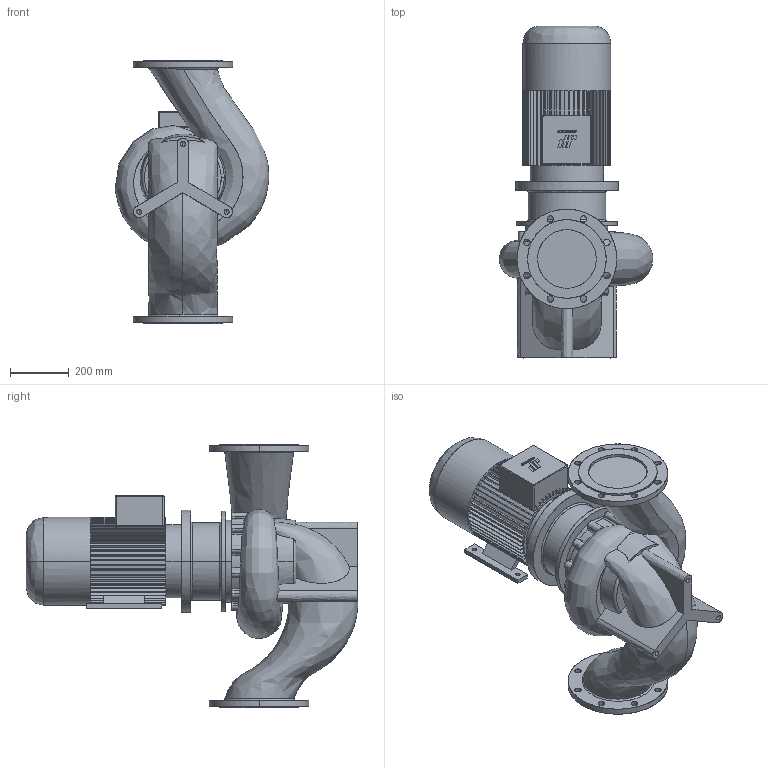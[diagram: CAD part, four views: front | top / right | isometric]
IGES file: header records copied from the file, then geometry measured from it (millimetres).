
Start section: CombiLine
Global section: file name: CLB_200-200_IEC160M_ND10.igs; native system:  By UGS Corp.; preprocessor: XPlus GENERIC/IGES 3.0; author: Stageplaats; organization: Johnson Pump Water B.V.; date: 20070718.091405; units: millimetre
Bounding box: 524.95 x 1132.5 x 900 mm (x, y, z)
Surface area: 2863140.7 mm2 (no closed solid volume)
Topology: 0 solids, 0 shells, 623 faces, 3782 edges, 3776 vertices
Faces by surface type: bspline 623
